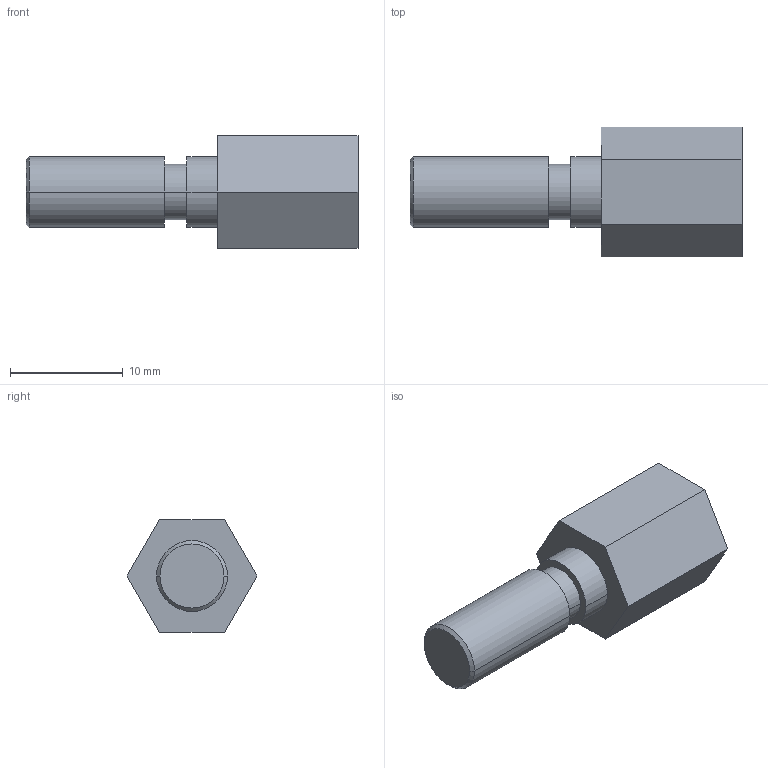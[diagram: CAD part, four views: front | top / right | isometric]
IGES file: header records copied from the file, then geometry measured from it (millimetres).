
Global section: file name: No Iges File Name specified; native system: Autodesk Inventor 2009; preprocessor: AutoDesk Inventor Iges Exporter R2009; author: y-shimohigashi; date: 20080702.092751; units: millimetre
Bounding box: 29.5 x 11.55 x 10 mm (x, y, z)
Volume: 1526.6 mm3; surface area: 1013.4 mm2
Topology: 1 solids, 1 shells, 22 faces, 46 edges, 30 vertices
Faces by surface type: plane 11, cylinder 6, bspline 3, cone 2
